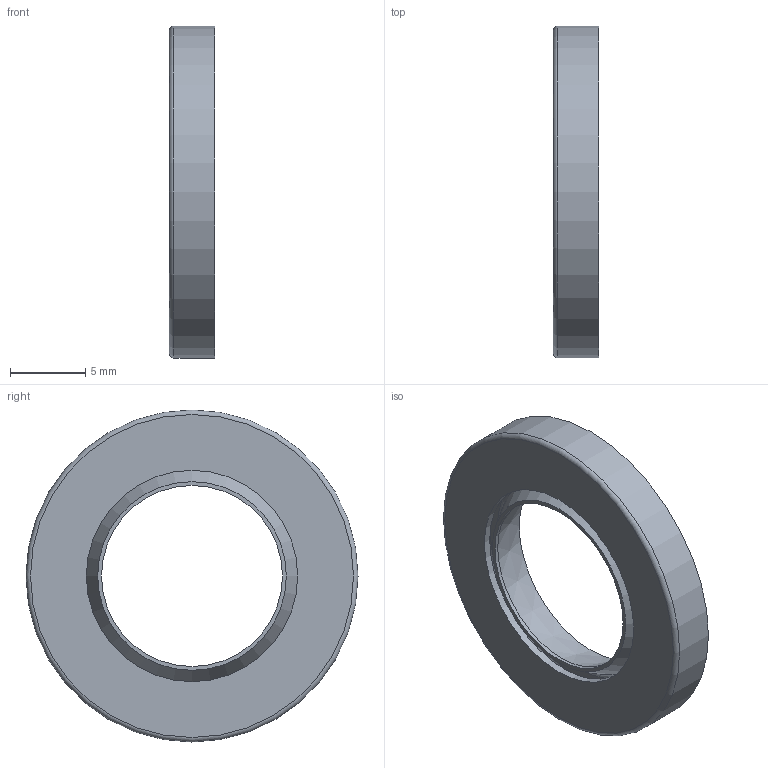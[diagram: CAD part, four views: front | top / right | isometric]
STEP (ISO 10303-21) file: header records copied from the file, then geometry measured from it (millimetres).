
FILE_DESCRIPTION(('STEP AP203'),'1');
FILE_NAME('//192.168.1.1/share/s-4 技術開発/s-4-4_CAD/s-4-4-3_見直し済み/007 修正済み/シール/SBX-12.step','2022-02-16T05:42:28',(' '),(' '),'Spatial InterOp 3D',' ',' ');
FILE_SCHEMA(('CONFIG_CONTROL_DESIGN'));
Length unit declared in the file: millimetre
Products named in the file (1): 1
Bounding box: 3 x 22 x 22 mm (x, y, z)
Volume: 637.3 mm3; surface area: 1118.8 mm2
Topology: 1 solids, 1 shells, 14 faces, 23 edges, 14 vertices
Faces by surface type: plane 5, cylinder 4, torus 3, cone 2
Full cylindrical faces by diameter (mm): 12 x1, 14 x1, 17.5 x1, 22 x1
Entity records: 332 total; most frequent: DIRECTION 58, CARTESIAN_POINT 43, AXIS2_PLACEMENT_3D 29, EDGE_LOOP 28, ORIENTED_EDGE 28, FACE_OUTER_BOUND 21, ADVANCED_FACE 14, EDGE_CURVE 14
